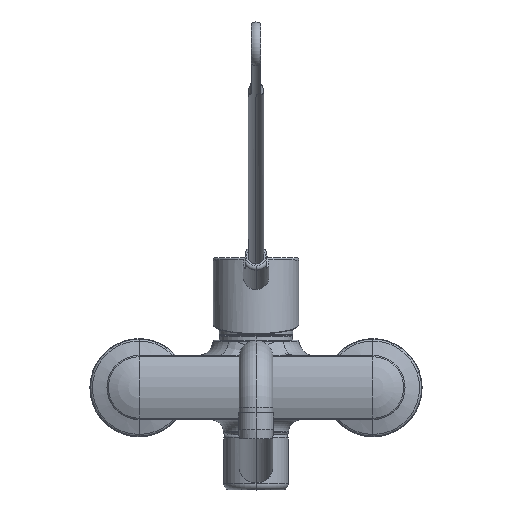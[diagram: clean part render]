
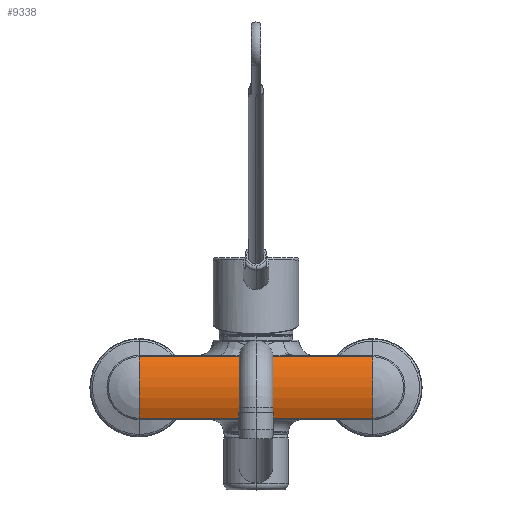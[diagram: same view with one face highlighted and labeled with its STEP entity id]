
A CAD part, top view. The second image highlights one B-rep face of the part: STEP entity #9338.
In plain terms, the highlighted cylindrical face has radius 42 mm (diameter 84 mm), a partial arc.
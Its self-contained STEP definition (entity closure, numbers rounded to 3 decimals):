
#2550=DIRECTION('',(1.,0.,0.));
#2551=VECTOR('',#2550,153.);
#2552=CARTESIAN_POINT('',(-76.5,20.114,30.87));
#2553=LINE('',#2552,#2551);
#2901=DIRECTION('',(-1.,0.,0.));
#2902=VECTOR('',#2901,153.);
#2903=CARTESIAN_POINT('',(76.5,-20.114,30.87));
#2904=LINE('',#2903,#2902);
#3416=CARTESIAN_POINT('',(-76.5,0.,-6.));
#3417=DIRECTION('',(1.,0.,0.));
#3418=DIRECTION('',(0.,0.,1.));
#3419=AXIS2_PLACEMENT_3D('',#3416,#3417,#3418);
#3421=CARTESIAN_POINT('',(-76.5,0.,-6.));
#3422=DIRECTION('',(-1.,0.,0.));
#3423=DIRECTION('',(0.,0.,1.));
#3424=AXIS2_PLACEMENT_3D('',#3421,#3422,#3423);
#3426=CARTESIAN_POINT('',(76.5,0.,-6.));
#3427=DIRECTION('',(1.,0.,0.));
#3428=DIRECTION('',(0.,0.479,0.878));
#3429=AXIS2_PLACEMENT_3D('',#3426,#3427,#3428);
#3431=CARTESIAN_POINT('',(76.5,0.,-6.));
#3432=DIRECTION('',(-1.,0.,0.));
#3433=DIRECTION('',(0.,-0.479,0.878));
#3434=AXIS2_PLACEMENT_3D('',#3431,#3432,#3433);
#4473=CARTESIAN_POINT('',(76.5,20.114,30.87));
#4474=CARTESIAN_POINT('',(76.5,-20.114,30.87));
#4475=VERTEX_POINT('',#4473);
#4476=VERTEX_POINT('',#4474);
#4477=CARTESIAN_POINT('',(-76.5,-20.114,
30.87));
#4478=VERTEX_POINT('',#4477);
#4483=CARTESIAN_POINT('',(-76.5,20.114,30.87));
#4484=VERTEX_POINT('',#4483);
#4485=CARTESIAN_POINT('',(76.5,0.,36.));
#4486=VERTEX_POINT('',#4485);
#4487=CARTESIAN_POINT('',(-76.5,0.,36.));
#4488=VERTEX_POINT('',#4487);
#9323=CARTESIAN_POINT('',(-117.36,0.,-6.));
#9324=DIRECTION('',(-1.,0.,0.));
#9325=DIRECTION('',(0.,0.,-1.));
#9326=AXIS2_PLACEMENT_3D('',#9323,#9324,#9325);
#9327=CYLINDRICAL_SURFACE('',#9326,42.);
#9328=ORIENTED_EDGE('',*,*,#8524,.T.);
#9329=ORIENTED_EDGE('',*,*,#9306,.F.);
#9330=ORIENTED_EDGE('',*,*,#9304,.T.);
#9331=ORIENTED_EDGE('',*,*,#8010,.T.);
#9333=ORIENTED_EDGE('',*,*,#9332,.T.);
#9335=ORIENTED_EDGE('',*,*,#9334,.F.);
#9336=EDGE_LOOP('',(#9328,#9329,#9330,#9331,#9333,#9335));
#9337=FACE_OUTER_BOUND('',#9336,.F.);
#3420=CIRCLE('',#3419,42.);
#3425=CIRCLE('',#3424,42.);
#3430=CIRCLE('',#3429,42.);
#3435=CIRCLE('',#3434,42.);
#8010=EDGE_CURVE('',#4484,#4475,#2553,.T.);
#8524=EDGE_CURVE('',#4476,#4478,#2904,.T.);
#9304=EDGE_CURVE('',#4488,#4484,#3425,.T.);
#9306=EDGE_CURVE('',#4488,#4478,#3420,.T.);
#9332=EDGE_CURVE('',#4475,#4486,#3430,.T.);
#9334=EDGE_CURVE('',#4476,#4486,#3435,.T.);
#9338=ADVANCED_FACE('',(#9337),#9327,.T.);
